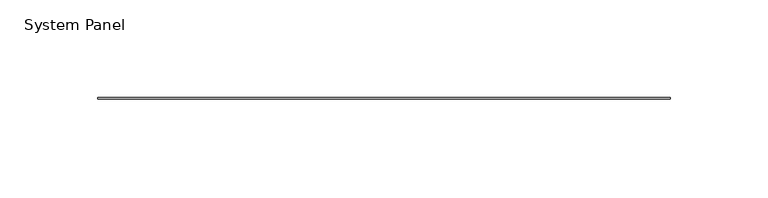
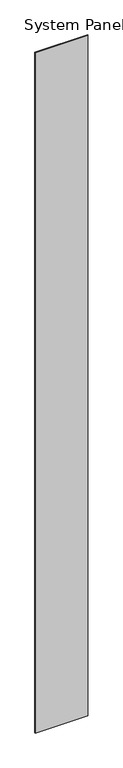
"""IFC4 building model written with IfcOpenShell, lengths in millimetres: plate geometry, System Panel : Stratco_Hiland_Tray."""

from ifc_helpers import new_model, si_unit, origin, origin_with_axes, place, context, project, spatial, polyline, outline, extrude, source, transform, mapped, element, save


def system_panel_c2a29967(model_context):
    return source(origin(), model_context, "Body", "SweptSolid", [
        extrude(outline(polyline([(146.8699777, 2.5), (-146.8699777, 2.5), (-146.8699777, 3.5), (146.8699777, 3.5), (146.8699777, 2.5)])), origin_with_axes(), (0.0, 0.0, 1.0), 4000.0),
    ])


if __name__ == "__main__":
    model = new_model("IFC4")
    model_context = context("Model", 3, world=origin())
    ifc_project = project(units=[si_unit("LENGTHUNIT", "METRE", prefix="MILLI")], contexts=[model_context])
    site = spatial("IfcSite", under=ifc_project)
    building = spatial("IfcBuilding", under=site)
    placement = place(None, origin())
    system_panel_shape = system_panel_c2a29967(model_context)
    element("IfcPlate", 1, ObjectType="System Panel : Stratco_Hiland_Tray", at=placement, inside=building, context=model_context, shape_type="MappedRepresentation", body=[
        mapped(system_panel_shape, transform((0.0, 0.0, 0.0), x_axis=(1.0, 0.0, 0.0), y_axis=(0.0, 1.0, 0.0), z_axis=(0.0, 0.0, 1.0))),
    ])
    save(model, "model.ifc")
